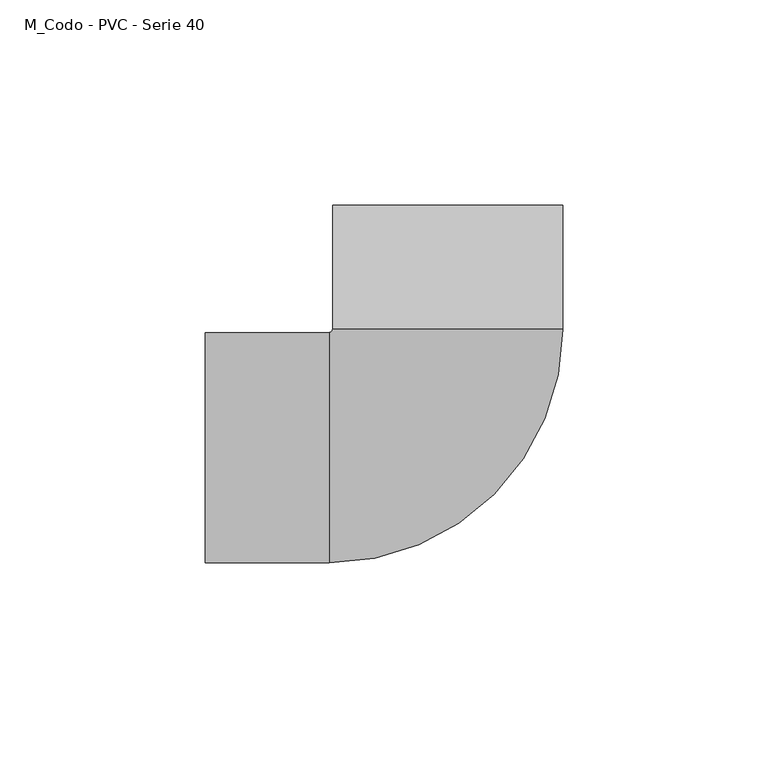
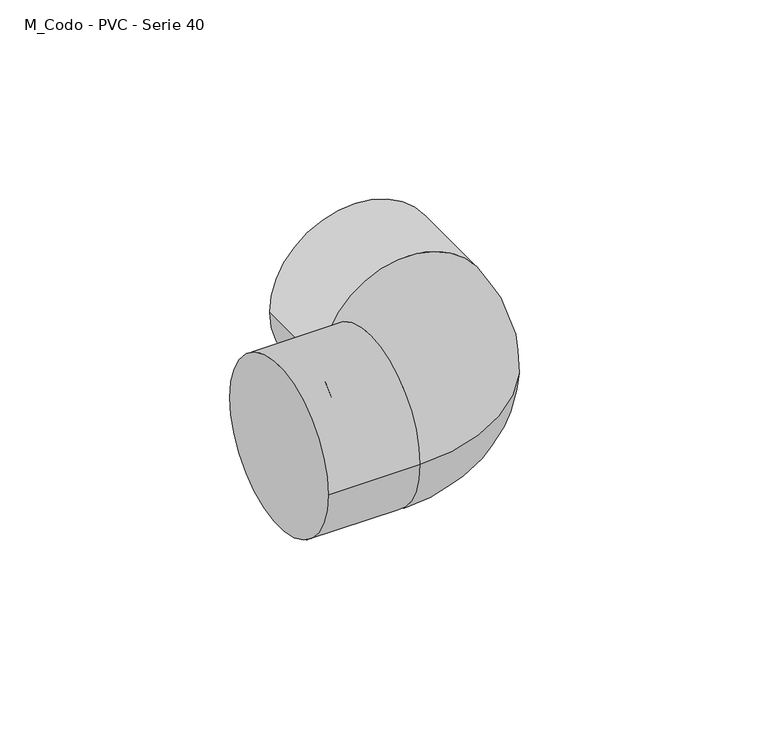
"""IFC4 building model written with IfcOpenShell, lengths in millimetres: pipe fitting geometry, M_Codo - PVC - Serie 40 : Estándar."""

from ifc_helpers import new_model, si_unit, point, frame, origin, place, context, project, spatial, circle_curve, ellipse_curve, trimmed, source, transform, mapped, element, save
from ifc_brep_helpers import plane_surface, cylinder_surface, revolved_surface, advanced_brep


def m_codo_pvc_serie_40_457dd693(model_context):
    return source(origin(), model_context, "Body", "AdvancedBrep", [
        advanced_brep(
        [(-58.928, -27.9915938, 0.0), (-58.928, 27.9915937, 0.0), (-28.7853437, -27.9915938, 0.0), (-28.7853437, 27.9915937, 0.0), (-27.9915937, 28.7853437, 0.0), (27.9915938, 28.7853437, 0.0), (27.9915938, 58.928, 0.0), (-27.9915937, 58.928, 0.0)],
        [
            (0, 1, circle_curve(frame((-58.928, 0.0, 0.0), z_axis=(-1.0, 0.0, 0.0), x_axis=(0.0, 1.0, 0.0)), 27.9915938)),
            (1, 0, circle_curve(frame((-58.928, 0.0, 0.0), z_axis=(-1.0, 0.0, 0.0), x_axis=(0.0, 1.0, 0.0)), 27.9915938)),
            (0, 2),
            (2, 3, circle_curve(frame((-28.7853437, 0.0, 0.0), z_axis=(-1.0, 0.0, 0.0), x_axis=(0.0, 1.0, 0.0)), 27.9915938)),
            (3, 1),
            (3, 2, circle_curve(frame((-28.7853437, 0.0, 0.0), z_axis=(-1.0, 0.0, 0.0), x_axis=(0.0, 1.0, 0.0)), 27.9915938)),
            (4, 3, circle_curve(frame((-28.7853437, 28.7853437, 0.0), z_axis=(0.0, 0.0, -1.0), x_axis=(0.0, -1.0, 0.0)), 0.79375)),
            (2, 5, circle_curve(frame((-28.7853437, 28.7853437, 0.0), z_axis=(0.0, 0.0, 1.0), x_axis=(0.0, -1.0, 0.0)), 56.7769375)),
            (5, 4, circle_curve(frame((0.0, 28.7853437, 0.0), z_axis=(0.0, -1.0, 0.0), x_axis=(-1.0, 0.0, 0.0)), 27.9915938)),
            (4, 5, circle_curve(frame((0.0, 28.7853437, 0.0), z_axis=(0.0, -1.0, 0.0), x_axis=(-1.0, 0.0, 0.0)), 27.9915938)),
            (6, 7, circle_curve(frame((0.0, 58.928, 0.0), z_axis=(0.0, 1.0, 0.0), x_axis=(-1.0, 0.0, 0.0)), 27.9915938)),
            (7, 6, circle_curve(frame((0.0, 58.928, 0.0), z_axis=(0.0, 1.0, 0.0), x_axis=(-1.0, 0.0, 0.0)), 27.9915938)),
            (5, 6),
            (7, 4),
        ],
        [
            plane_surface(frame((-58.928, 0.0, 0.0), z_axis=(-1.0, 0.0, 0.0), x_axis=(0.0, 0.0, 1.0))),
            cylinder_surface(frame((-58.928, 0.0, 0.0), z_axis=(-1.0, 0.0, 0.0), x_axis=(0.0, 1.0, 0.0)), 27.9915938),
            revolved_surface(trimmed(ellipse_curve(frame((-28.7853437, 0.0, 0.0), z_axis=(-1.0, 0.0, 0.0), x_axis=(0.0, 1.0, 0.0)), 27.9915938, 27.9915938), [point((-28.7853437, -27.9915938, 0.0))], [point((-28.7853437, 27.9915937, 0.0))], True, "CARTESIAN"), (-28.7853437, 28.7853437, 0.0), (0.0, 0.0, 1.0)),
            revolved_surface(trimmed(ellipse_curve(frame((-28.7853437, 0.0, 0.0), z_axis=(-1.0, 0.0, 0.0), x_axis=(0.0, 1.0, 0.0)), 27.9915938, 27.9915938), [point((-28.7853437, 27.9915937, 0.0))], [point((-28.7853437, -27.9915938, 0.0))], True, "CARTESIAN"), (-28.7853437, 28.7853437, 0.0), (0.0, 0.0, 1.0)),
            plane_surface(frame((0.0, 58.928, 0.0), z_axis=(0.0, 1.0, 0.0), x_axis=(0.0, 0.0, 1.0))),
            cylinder_surface(frame((0.0, 28.7853437, 0.0), z_axis=(0.0, -1.0, 0.0), x_axis=(-1.0, 0.0, 0.0)), 27.9915938),
        ],
        [
            (0, [[1, 2]]),
            (1, [[-1, 3, 4, 5]]),
            (1, [[-2, -5, 6, -3]]),
            (2, [[7, -4, 8, 9]]),
            (3, [[-8, -6, -7, 10]]),
            (4, [[11, 12]]),
            (5, [[-9, 13, -12, 14]]),
            (5, [[-10, -14, -11, -13]]),
        ],
    ),
    ])


if __name__ == "__main__":
    model = new_model("IFC4")
    model_context = context("Model", 3, world=origin())
    ifc_project = project(units=[si_unit("LENGTHUNIT", "METRE", prefix="MILLI")], contexts=[model_context])
    site = spatial("IfcSite", under=ifc_project)
    building = spatial("IfcBuilding", under=site)
    placement = place(None, origin())
    m_codo_pvc_serie_40_shape = m_codo_pvc_serie_40_457dd693(model_context)
    element("IfcPipeFitting", 1, ObjectType="M_Codo - PVC - Serie 40 : Estándar", at=placement, inside=building, context=model_context, shape_type="MappedRepresentation", body=[
        mapped(m_codo_pvc_serie_40_shape, transform((0.0, 0.0, 0.0), x_axis=(1.0, 0.0, 0.0), y_axis=(0.0, 1.0, 0.0), z_axis=(0.0, 0.0, 1.0))),
    ])
    save(model, "model.ifc")
